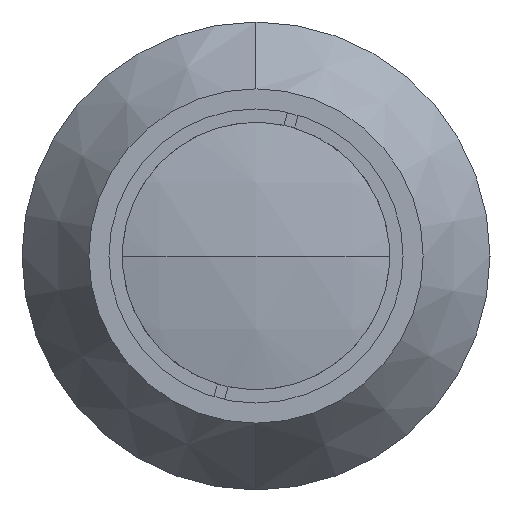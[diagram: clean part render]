
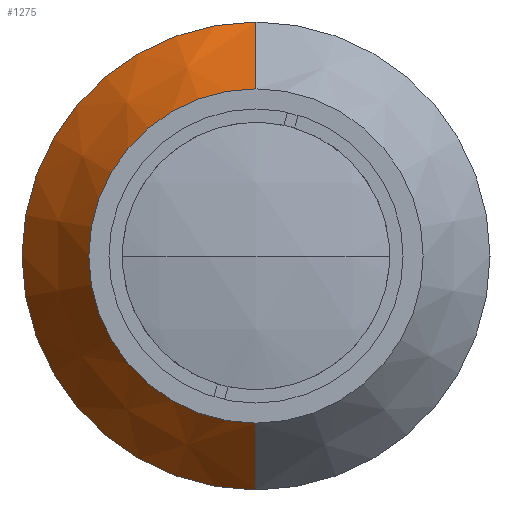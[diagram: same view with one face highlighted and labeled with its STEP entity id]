
A CAD part, left-side view. The second image highlights one B-rep face of the part: STEP entity #1275.
In plain terms, the highlighted conical face has half-angle 35 degrees and reference radius 21 mm.
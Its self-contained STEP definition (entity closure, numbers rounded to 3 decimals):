
#44 = AXIS2_PLACEMENT_3D ( 'NONE', #3453, #1616, #3726 ) ;
#320 = VECTOR ( 'NONE', #3169, 1000. ) ;
#626 = EDGE_CURVE ( 'NONE', #3523, #1291, #2716, .T. ) ;
#672 = CARTESIAN_POINT ( 'NONE',  ( 15., 0., -15. ) ) ;
#732 = ORIENTED_EDGE ( 'NONE', *, *, #626, .T. ) ;
#800 = CIRCLE ( 'NONE', #44, 15. ) ;
#1059 = VERTEX_POINT ( 'NONE', #672 ) ;
#1082 = AXIS2_PLACEMENT_3D ( 'NONE', #1610, #3949, #1235 ) ;
#1216 = CARTESIAN_POINT ( 'NONE',  ( 23.569, 0., -21. ) ) ;
#1227 = EDGE_LOOP ( 'NONE', ( #2796, #732, #2333, #1887 ) ) ;
#1235 = DIRECTION ( 'NONE',  ( 0., 0., -1. ) ) ;
#1275 = ADVANCED_FACE ( 'NONE', ( #3238 ), #2103, .T. ) ;
#1291 = VERTEX_POINT ( 'NONE', #2946 ) ;
#1451 = EDGE_CURVE ( 'NONE', #1059, #3637, #3587, .T. ) ;
#1504 = DIRECTION ( 'NONE',  ( -1., 0., 0. ) ) ;
#1520 = CARTESIAN_POINT ( 'NONE',  ( 23.569, 0., 21. ) ) ;
#1610 = CARTESIAN_POINT ( 'NONE',  ( 23.569, 0., 0. ) ) ;
#1616 = DIRECTION ( 'NONE',  ( -1., 0., 0. ) ) ;
#1887 = ORIENTED_EDGE ( 'NONE', *, *, #1451, .F. ) ;
#2103 = CONICAL_SURFACE ( 'NONE', #1082, 21., 0.611 ) ;
#2190 = VECTOR ( 'NONE', #3909, 1000. ) ;
#2266 = AXIS2_PLACEMENT_3D ( 'NONE', #3378, #1504, #3658 ) ;
#2333 = ORIENTED_EDGE ( 'NONE', *, *, #2579, .T. ) ;
#2579 = EDGE_CURVE ( 'NONE', #1291, #3637, #2936, .T. ) ;
#2704 = EDGE_CURVE ( 'NONE', #3523, #1059, #800, .T. ) ;
#2716 = LINE ( 'NONE', #1520, #2190 ) ;
#2796 = ORIENTED_EDGE ( 'NONE', *, *, #2704, .F. ) ;
#2936 = CIRCLE ( 'NONE', #2266, 21. ) ;
#2946 = CARTESIAN_POINT ( 'NONE',  ( 23.569, 0., 21. ) ) ;
#2994 = CARTESIAN_POINT ( 'NONE',  ( 23.569, 0., -21. ) ) ;
#3169 = DIRECTION ( 'NONE',  ( 0.819, 0., -0.574 ) ) ;
#3238 = FACE_OUTER_BOUND ( 'NONE', #1227, .T. ) ;
#3243 = CARTESIAN_POINT ( 'NONE',  ( 15., 0., 15. ) ) ;
#3378 = CARTESIAN_POINT ( 'NONE',  ( 23.569, 0., 0. ) ) ;
#3453 = CARTESIAN_POINT ( 'NONE',  ( 15., 0., 0. ) ) ;
#3523 = VERTEX_POINT ( 'NONE', #3243 ) ;
#3587 = LINE ( 'NONE', #1216, #320 ) ;
#3637 = VERTEX_POINT ( 'NONE', #2994 ) ;
#3658 = DIRECTION ( 'NONE',  ( 0., 0., 1. ) ) ;
#3726 = DIRECTION ( 'NONE',  ( 0., 0., 1. ) ) ;
#3909 = DIRECTION ( 'NONE',  ( 0.819, 0., 0.574 ) ) ;
#3949 = DIRECTION ( 'NONE',  ( 1., 0., 0. ) ) ;
